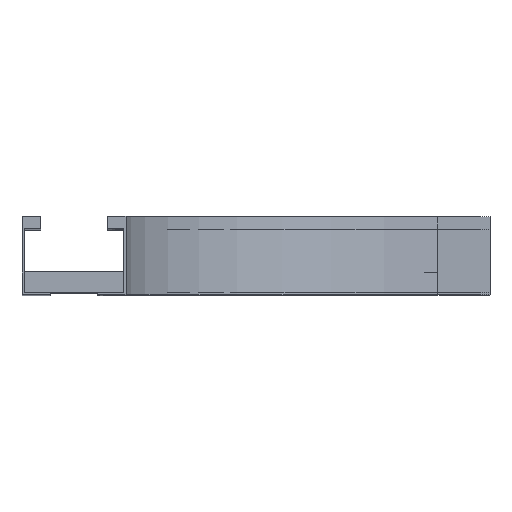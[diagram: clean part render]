
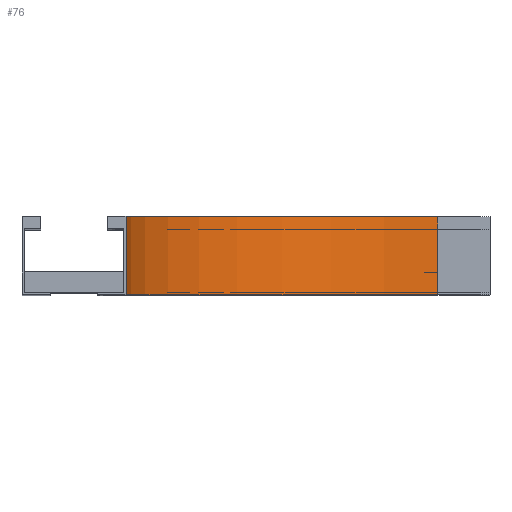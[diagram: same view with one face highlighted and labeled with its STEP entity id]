
A CAD part, top view. The second image highlights one B-rep face of the part: STEP entity #76.
In plain terms, the highlighted cylindrical face has radius 300 mm (diameter 600 mm), a partial arc.
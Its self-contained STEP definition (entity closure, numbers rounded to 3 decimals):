
#14 = CIRCLE ( 'NONE', #913, 300. ) ;
#76 = ADVANCED_FACE ( 'NONE', ( #798 ), #657, .F. ) ;
#98 = ORIENTED_EDGE ( 'NONE', *, *, #1125, .F. ) ;
#214 = CARTESIAN_POINT ( 'NONE',  ( 0., 0., -50. ) ) ;
#246 = DIRECTION ( 'NONE',  ( -1., 0., 0. ) ) ;
#253 = EDGE_CURVE ( 'NONE', #1167, #1177, #1268, .T. ) ;
#298 = AXIS2_PLACEMENT_3D ( 'NONE', #1019, #1669, #246 ) ;
#343 = CARTESIAN_POINT ( 'NONE',  ( 0., 0., -50. ) ) ;
#394 = CARTESIAN_POINT ( 'NONE',  ( 300., 75., -350. ) ) ;
#475 = VECTOR ( 'NONE', #886, 1000. ) ;
#657 = CYLINDRICAL_SURFACE ( 'NONE', #1080, 300. ) ;
#675 = ORIENTED_EDGE ( 'NONE', *, *, #253, .T. ) ;
#696 = ORIENTED_EDGE ( 'NONE', *, *, #1111, .T. ) ;
#732 = VERTEX_POINT ( 'NONE', #214 ) ;
#752 = CARTESIAN_POINT ( 'NONE',  ( 300., 0., -350. ) ) ;
#757 = CARTESIAN_POINT ( 'NONE',  ( 300., 0., -350. ) ) ;
#798 = FACE_OUTER_BOUND ( 'NONE', #1050, .T. ) ;
#840 = VERTEX_POINT ( 'NONE', #1054 ) ;
#886 = DIRECTION ( 'NONE',  ( 0., 1., 0. ) ) ;
#913 = AXIS2_PLACEMENT_3D ( 'NONE', #1144, #1378, #1150 ) ;
#926 = CIRCLE ( 'NONE', #298, 300. ) ;
#1019 = CARTESIAN_POINT ( 'NONE',  ( 300., 75., -50. ) ) ;
#1050 = EDGE_LOOP ( 'NONE', ( #1558, #98, #696, #675 ) ) ;
#1054 = CARTESIAN_POINT ( 'NONE',  ( 0., 75., -50. ) ) ;
#1080 = AXIS2_PLACEMENT_3D ( 'NONE', #1106, #1487, #1630 ) ;
#1106 = CARTESIAN_POINT ( 'NONE',  ( 300., 0., -50. ) ) ;
#1111 = EDGE_CURVE ( 'NONE', #732, #1167, #14, .T. ) ;
#1125 = EDGE_CURVE ( 'NONE', #732, #840, #1517, .T. ) ;
#1144 = CARTESIAN_POINT ( 'NONE',  ( 300., 0., -50. ) ) ;
#1150 = DIRECTION ( 'NONE',  ( -1., 0., 0. ) ) ;
#1167 = VERTEX_POINT ( 'NONE', #757 ) ;
#1177 = VERTEX_POINT ( 'NONE', #394 ) ;
#1210 = VECTOR ( 'NONE', #1682, 1000. ) ;
#1268 = LINE ( 'NONE', #752, #1210 ) ;
#1378 = DIRECTION ( 'NONE',  ( 0., -1., 0. ) ) ;
#1487 = DIRECTION ( 'NONE',  ( 0., -1., 0. ) ) ;
#1517 = LINE ( 'NONE', #343, #475 ) ;
#1547 = EDGE_CURVE ( 'NONE', #840, #1177, #926, .T. ) ;
#1558 = ORIENTED_EDGE ( 'NONE', *, *, #1547, .F. ) ;
#1630 = DIRECTION ( 'NONE',  ( 0., 0., -1. ) ) ;
#1669 = DIRECTION ( 'NONE',  ( 0., -1., 0. ) ) ;
#1682 = DIRECTION ( 'NONE',  ( 0., 1., 0. ) ) ;
